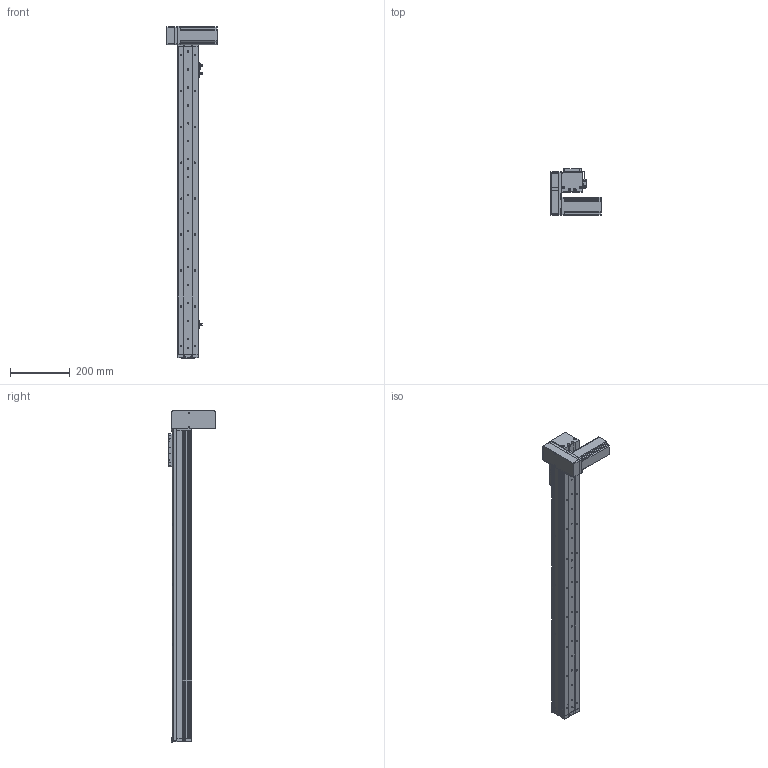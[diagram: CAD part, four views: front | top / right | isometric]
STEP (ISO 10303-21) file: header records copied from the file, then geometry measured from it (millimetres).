
FILE_DESCRIPTION (( 'STEP AP214' ), '1' );
FILE_NAME ('KSD68BS-S850-MRD-CR.STEP', '2019-11-08T03:14:08', ( '微软用户' ), ( '微软中国' ), 'SwSTEP 2.0', 'SolidWorks 2014', '' );
FILE_SCHEMA (( 'AUTOMOTIVE_DESIGN' ));
Length unit declared in the file: millimetre
Products named in the file (14): 台达ECMA－C20604AS伺服电机（400W); KSD68BS 850行程底板全封闭; KSD68BS-S850-MRD-CR; KSD68BS 850行程盖板全封闭; 68宽单导轨全封闭丝杆传动安装板1防护罩; KSD68BS 850行程侧板全封闭; 68遵裔啣揤啣1; 68宽单导轨全封闭同步带端板; 68单导轨全封闭同步带电机座右; 68单导轨全封闭同步带安装板; 悵誘欶奻狟殏; 68宽马达安装板连板上折同步带; 感应片68宽全封闭; U倰嫖萇EEㄜSX672
Assembly tree (17 placements, depth 2):
  KSD68BS-S850-MRD-CR
    KSD68BS 850行程底板全封闭
    台达ECMA－C20604AS伺服电机（400W)
    U倰嫖萇EEㄜSX672  x3
    感应片68宽全封闭
    68宽马达安装板连板上折同步带
    悵誘欶奻狟殏
    68单导轨全封闭同步带安装板
    68单导轨全封闭同步带电机座右
    68宽单导轨全封闭同步带端板
    KSD68BS 850行程侧板全封闭  x2
    68宽单导轨全封闭丝杆传动安装板1防护罩
    68遵裔啣揤啣1  x2
    KSD68BS 850行程盖板全封闭
Bounding box: 167.2 x 155.5 x 1108.1 mm (x, y, z)
Volume: 2335283.8 mm3; surface area: 876614 mm2
Topology: 18 solids, 18 shells, 1474 faces, 4187 edges, 2681 vertices
Faces by surface type: cylinder 691, plane 627, cone 156
Entity records: 46582 total; most frequent: CARTESIAN_POINT 7913, DIRECTION 7005, ORIENTED_EDGE 6702, EDGE_CURVE 3351, AXIS2_PLACEMENT_3D 2519, VERTEX_POINT 2199, LINE 1967, VECTOR 1967
